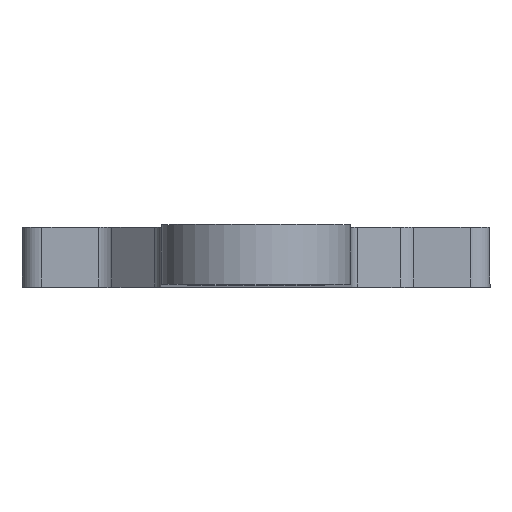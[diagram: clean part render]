
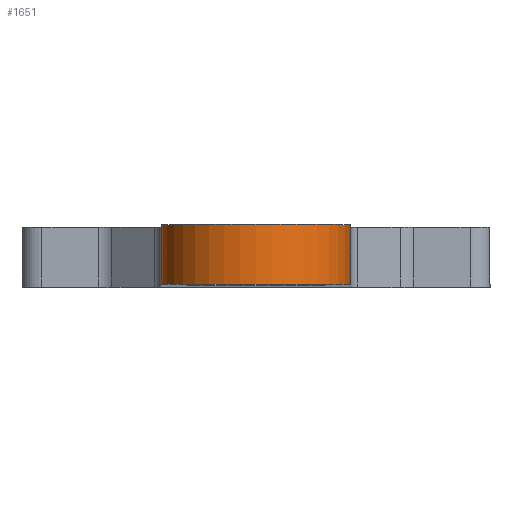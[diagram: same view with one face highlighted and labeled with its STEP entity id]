
A CAD part, top view. The second image highlights one B-rep face of the part: STEP entity #1651.
In plain terms, the highlighted cylindrical face has radius 4.75 mm (diameter 9.5 mm), a partial arc.
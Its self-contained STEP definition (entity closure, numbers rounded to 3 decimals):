
#245=CARTESIAN_POINT('',(0.,0.,75.25));
#246=DIRECTION('',(0.,-1.,0.));
#247=DIRECTION('',(1.,0.,0.));
#248=AXIS2_PLACEMENT_3D('',#245,#246,#247);
#542=CARTESIAN_POINT('',(0.,3.,75.25));
#543=DIRECTION('',(0.,1.,0.));
#544=DIRECTION('',(-1.,0.,0.));
#545=AXIS2_PLACEMENT_3D('',#542,#543,#544);
#719=DIRECTION('',(0.,1.,0.));
#720=VECTOR('',#719,3.);
#721=CARTESIAN_POINT('',(-4.75,0.,75.25));
#722=LINE('2760',#721,#720);
#888=DIRECTION('',(0.,1.,0.));
#889=VECTOR('',#888,3.);
#890=CARTESIAN_POINT('',(4.75,0.,75.25));
#891=LINE('2758',#890,#889);
#983=CARTESIAN_POINT('',(-4.75,0.,75.25));
#985=VERTEX_POINT('',#983);
#986=CARTESIAN_POINT('',(4.75,0.,75.25));
#988=VERTEX_POINT('',#986);
#991=CARTESIAN_POINT('',(-4.75,3.,75.25));
#993=VERTEX_POINT('',#991);
#994=CARTESIAN_POINT('',(4.75,3.,75.25));
#996=VERTEX_POINT('',#994);
#1640=CARTESIAN_POINT('',(0.,-3.911,75.25));
#1641=DIRECTION('',(0.,1.,0.));
#1642=DIRECTION('',(1.,0.,0.));
#1643=AXIS2_PLACEMENT_3D('',#1640,#1641,#1642);
#1644=CYLINDRICAL_SURFACE('2734',#1643,4.75);
#1645=ORIENTED_EDGE('2757',*,*,#1191,.T.);
#1646=ORIENTED_EDGE('2758',*,*,#1633,.F.);
#1647=ORIENTED_EDGE('2759',*,*,#1045,.T.);
#1648=ORIENTED_EDGE('2760',*,*,#1427,.T.);
#1649=EDGE_LOOP('2734',(#1645,#1646,#1647,#1648));
#1650=FACE_OUTER_BOUND('2734',#1649,.F.);
#249=CIRCLE('2759',#248,4.75);
#546=CIRCLE('2757',#545,4.75);
#1045=EDGE_CURVE('2759',#988,#985,#249,.T.);
#1191=EDGE_CURVE('2757',#993,#996,#546,.T.);
#1427=EDGE_CURVE('2760',#985,#993,#722,.T.);
#1633=EDGE_CURVE('2758',#988,#996,#891,.T.);
#1651=ADVANCED_FACE('2734',(#1650),#1644,.T.);
